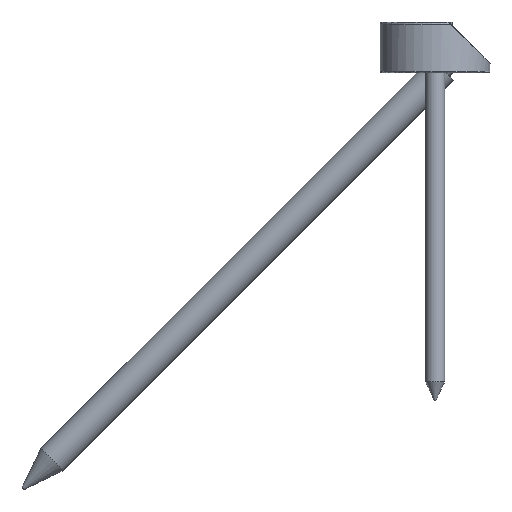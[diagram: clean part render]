
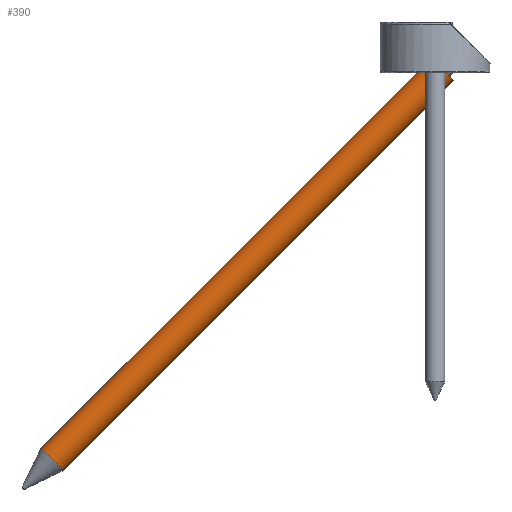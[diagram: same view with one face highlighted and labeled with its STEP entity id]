
A CAD part, left-side view. The second image highlights one B-rep face of the part: STEP entity #390.
In plain terms, the highlighted cylindrical face has radius 5 mm (diameter 10 mm), a full revolution.
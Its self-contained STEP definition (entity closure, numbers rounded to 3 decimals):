
#59=CYLINDRICAL_SURFACE('',#480,5.);
#91=CIRCLE('',#479,5.);
#92=CIRCLE('',#481,5.);
#165=ORIENTED_EDGE('',*,*,#206,.T.);
#166=ORIENTED_EDGE('',*,*,#205,.F.);
#205=EDGE_CURVE('',#238,#238,#91,.T.);
#206=EDGE_CURVE('',#239,#239,#92,.T.);
#238=VERTEX_POINT('',#733);
#239=VERTEX_POINT('',#736);
#297=EDGE_LOOP('',(#165));
#298=EDGE_LOOP('',(#166));
#350=FACE_BOUND('',#297,.T.);
#351=FACE_BOUND('',#298,.T.);
#390=ADVANCED_FACE('',(#350,#351),#59,.T.);
#479=AXIS2_PLACEMENT_3D('',#732,#602,#603);
#480=AXIS2_PLACEMENT_3D('',#734,#604,#605);
#481=AXIS2_PLACEMENT_3D('',#735,#606,#607);
#602=DIRECTION('',(0.,1.,0.));
#603=DIRECTION('',(0.,0.,1.));
#604=DIRECTION('',(0.,1.,0.));
#605=DIRECTION('',(0.,0.,1.));
#606=DIRECTION('',(0.,1.,0.));
#607=DIRECTION('',(0.,0.,1.));
#732=CARTESIAN_POINT('',(0.,42.,0.));
#733=CARTESIAN_POINT('',(0.,42.,5.));
#734=CARTESIAN_POINT('',(0.,54.,0.));
#735=CARTESIAN_POINT('',(0.,-133.,0.));
#736=CARTESIAN_POINT('',(0.,-133.,5.));
